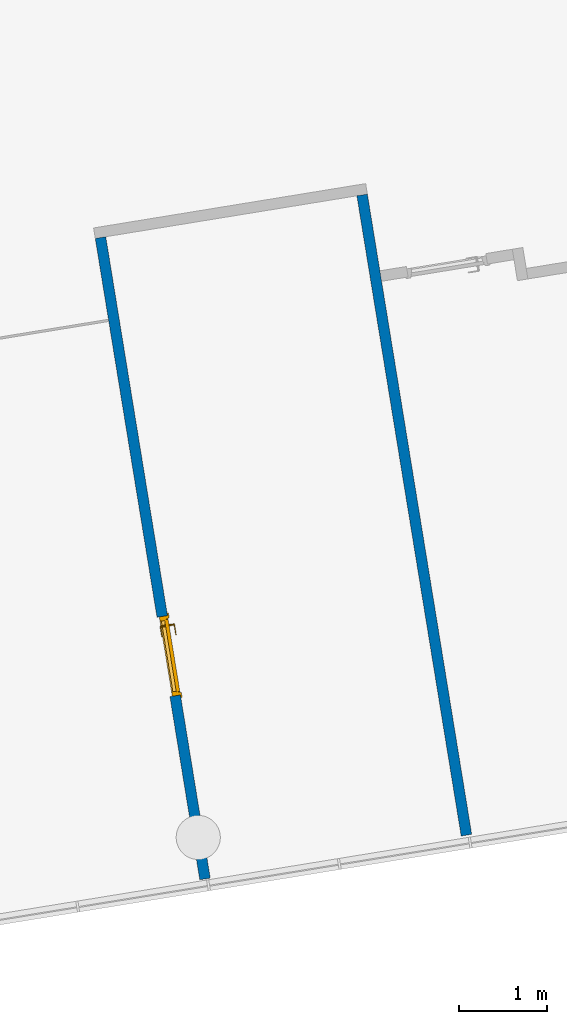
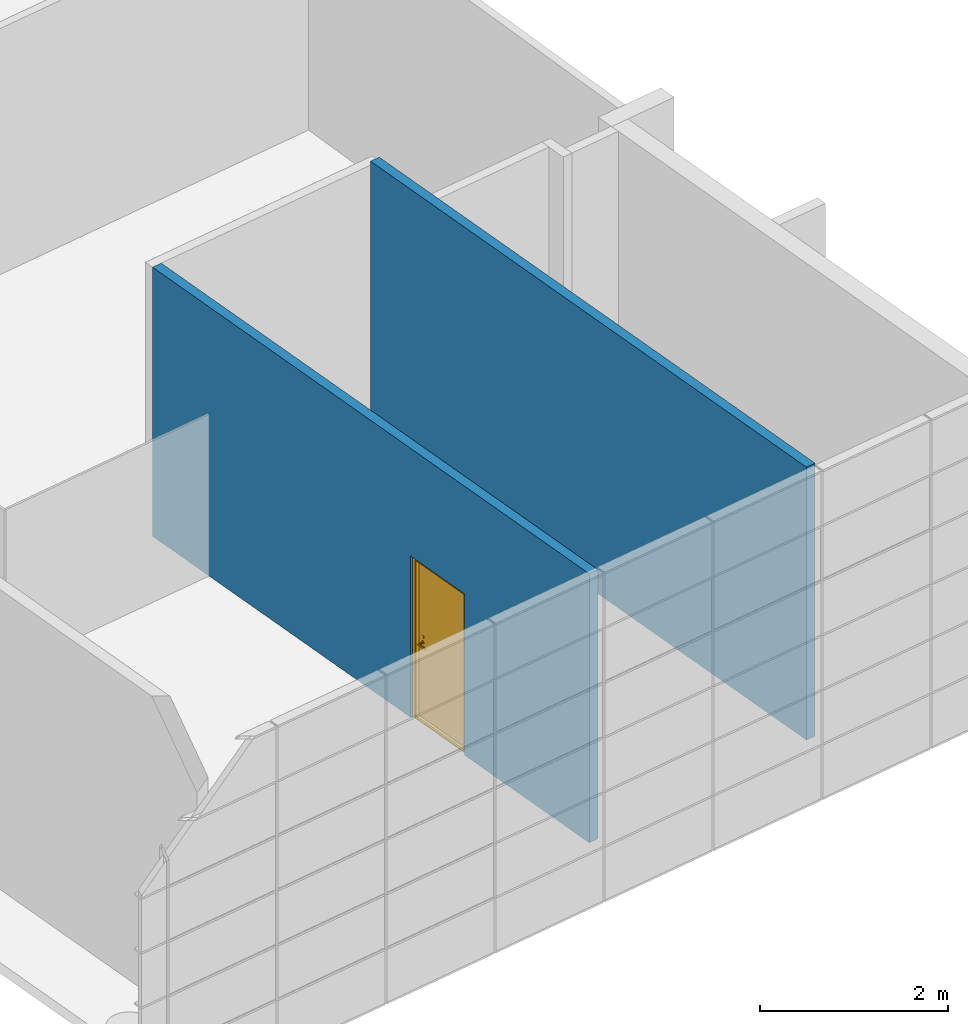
# One storey, part 10 of 18: 2 walls, 1 door, 1 opening.
"""IFC2X3 building model written with IfcOpenShell, lengths in millimetres."""

import ifcopenshell
import ifcopenshell.guid

model = None  # the IFC model being written
_history = None  # IfcOwnerHistory: only IFC2X3 demands one
_inside = {}  # id of a spatial element -> (the spatial element, [elements in it])
_under = {}  # id of a project, library or spatial element -> (it, [spatial elements below it])
_declared = {}  # id of a project -> (the project, [libraries it declares])
_typed = {}  # id of a type object -> (the type object, [elements of that type])
_made_of = {}  # id of a material, layer set ... -> (it, [elements and type objects made of it])


def new_model(schema):
    """Start an empty IFC model of exactly this schema.

    Asked for "IFC4X3", IfcOpenShell would pick the latest addendum, in which some entities
    have other attributes; the version numbers below select the first issue.
    IFC2X3 requires an IfcOwnerHistory on every rooted entity: one is made here for all.
    """
    global model, _history
    if schema == "IFC4X3":
        model = ifcopenshell.file(schema_version=(4, 3, 0, 0))
    else:
        model = ifcopenshell.file(schema=schema)
    _inside.clear()
    _under.clear()
    _declared.clear()
    _typed.clear()
    _made_of.clear()
    _history = None
    if model.schema == "IFC2X3":
        org = make("IfcOrganization", Name="unknown")
        user = make(
            "IfcPersonAndOrganization",
            ThePerson=make("IfcPerson", FamilyName="unknown"),
            TheOrganization=org,
        )
        app = make(
            "IfcApplication",
            ApplicationDeveloper=org,
            Version="unknown",
            ApplicationFullName="unknown",
            ApplicationIdentifier="unknown",
        )
        _history = make(
            "IfcOwnerHistory",
            OwningUser=user,
            OwningApplication=app,
            ChangeAction="ADDED",
            CreationDate=0,
        )
    return model


def make(cls, **values):
    """One entity of the class cls with the attributes given. An attribute that is None is left unset."""
    return model.create_entity(
        cls, **{name: value for name, value in values.items() if value is not None}
    )


def entity(cls, *values):
    """Any entity or typed value of the class cls, its attributes in the order of the schema. None: left unset."""
    e = model.create_entity(cls)
    for i, value in enumerate(values):
        if value is not None:
            e[i] = value
    return e


def rooted(cls, **values):
    """An entity with a GlobalId (a new one), such as an element, a storey or a relation."""
    return make(cls, GlobalId=ifcopenshell.guid.new(), OwnerHistory=_history, **values)


def si_unit(unit_type, name, prefix=None):
    """IfcSIUnit, for example si_unit("LENGTHUNIT", "METRE", prefix="MILLI")."""
    return make("IfcSIUnit", UnitType=unit_type, Prefix=prefix, Name=name)


def converted_unit(unit_type, name, factor, base, dimensions=None, offset=None):
    """IfcConversionBasedUnit, such as the inch: factor (a typed value) times the base unit."""
    return make(
        "IfcConversionBasedUnit"
        if offset is None
        else "IfcConversionBasedUnitWithOffset",
        ConversionOffset=offset,
        Dimensions=None
        if dimensions is None
        else entity("IfcDimensionalExponents", *dimensions),
        UnitType=unit_type,
        Name=name,
        ConversionFactor=make(
            "IfcMeasureWithUnit", ValueComponent=factor, UnitComponent=base
        ),
    )


def derived_unit(unit_type, elements):
    """IfcDerivedUnit: a product of units, each with its exponent."""
    return make(
        "IfcDerivedUnit",
        Elements=[
            make("IfcDerivedUnitElement", Unit=unit, Exponent=power)
            for unit, power in elements
        ],
        UnitType=unit_type,
    )


def assignment(units):
    """IfcUnitAssignment: the units of a project."""
    return None if units is None else make("IfcUnitAssignment", Units=units)


def point(xyz):
    """IfcCartesianPoint."""
    return None if xyz is None else make("IfcCartesianPoint", Coordinates=xyz)


def direction(xyz):
    """IfcDirection."""
    return None if xyz is None else make("IfcDirection", DirectionRatios=xyz)


def frame(location, z_axis=None, x_axis=None):
    """IfcAxis2Placement3D, a coordinate frame: its origin and axes. An axis left out is left unset."""
    return make(
        "IfcAxis2Placement3D",
        Location=point(location),
        Axis=direction(z_axis),
        RefDirection=direction(x_axis),
    )


def frame_2d(location, x_axis=None):
    """IfcAxis2Placement2D, a coordinate frame in the plane: its origin and x axis."""
    return make(
        "IfcAxis2Placement2D", Location=point(location), RefDirection=direction(x_axis)
    )


def origin():
    """The frame at (0, 0, 0) with its axes left unset."""
    return frame((0.0, 0.0, 0.0))


def origin_with_axes():
    """The frame at (0, 0, 0) with the z axis (0, 0, 1) and the x axis (1, 0, 0) written out."""
    return frame((0.0, 0.0, 0.0), z_axis=(0.0, 0.0, 1.0), x_axis=(1.0, 0.0, 0.0))


def place(relative_to, where):
    """IfcLocalPlacement: puts the frame where relative to a parent placement (None: the world)."""
    return make(
        "IfcLocalPlacement", PlacementRelTo=relative_to, RelativePlacement=where
    )


def context(
    kind, dimensions, precision=None, world=None, true_north=None, identifier=None
):
    """IfcGeometricRepresentationContext, for example the 3D "Model" context."""
    return make(
        "IfcGeometricRepresentationContext",
        ContextIdentifier=identifier,
        ContextType=kind,
        CoordinateSpaceDimension=dimensions,
        Precision=precision,
        WorldCoordinateSystem=world,
        TrueNorth=true_north,
    )


def subcontext(parent, identifier, kind, view, scale=None):
    """IfcGeometricRepresentationSubContext, for example "Body" below "Model"."""
    return make(
        "IfcGeometricRepresentationSubContext",
        ContextIdentifier=identifier,
        ContextType=kind,
        ParentContext=parent,
        TargetScale=scale,
        TargetView=view,
    )


def project(units=None, contexts=None):
    """IfcProject with its units and contexts."""
    return rooted(
        "IfcProject",
        Name="project",
        RepresentationContexts=contexts,
        UnitsInContext=assignment(units),
    )


def spatial(cls, under=None, at=None, **own):
    """A site, building, storey or space (cls), placed at a placement, below another one or the project."""
    s = rooted(cls, ObjectPlacement=at, **own)
    if under is not None:
        _under.setdefault(under.id(), (under, []))[1].append(s)
    return s


def polyline(points):
    """IfcPolyline through the points."""
    return make("IfcPolyline", Points=[point(p) for p in points])


def profile(cls, at=None, kind="AREA", **sizes):
    """A parametric profile (cls). Its sizes go by their IFC names, for example OverallWidth=200.0."""
    return make(cls, ProfileType=kind, Position=at, **sizes)


def rectangle(**sizes):
    """IfcRectangleProfileDef."""
    return profile("IfcRectangleProfileDef", **sizes)


def extrude(swept, where, along, depth):
    """IfcExtrudedAreaSolid: the profile swept, set in the frame where, extruded along a direction by depth."""
    return make(
        "IfcExtrudedAreaSolid",
        SweptArea=swept,
        Position=where,
        ExtrudedDirection=direction(along),
        Depth=depth,
    )


def clip(a, b, op="DIFFERENCE"):
    """IfcBooleanClippingResult: the solid a cut by the half space b."""
    return make(
        "IfcBooleanClippingResult", Operator=op, FirstOperand=a, SecondOperand=b
    )


def bounded_halfspace(plane, agree, where, boundary):
    """IfcPolygonalBoundedHalfSpace: a half space limited to a polygon's prism."""
    return make(
        "IfcPolygonalBoundedHalfSpace",
        BaseSurface=make("IfcPlane", Position=plane),
        AgreementFlag=agree,
        Position=where,
        PolygonalBoundary=boundary,
    )


def faces_of(points, faces, orient=None, outer=None):
    """IfcFace entities. A face is a list of loops; a loop is a list of indices into points, from 0.

    orient and outer hold one flag for each loop. By default every Orientation is true, the
    first loop of a face is its IfcFaceOuterBound and the others are IfcFaceBound.
    """
    made = []
    for i, loops in enumerate(faces):
        bounds = []
        for j, loop in enumerate(loops):
            is_outer = j == 0 if outer is None else outer[i][j]
            bounds.append(
                make(
                    "IfcFaceOuterBound" if is_outer else "IfcFaceBound",
                    Bound=make("IfcPolyLoop", Polygon=[points[k] for k in loop]),
                    Orientation=True if orient is None else orient[i][j],
                )
            )
        made.append(make("IfcFace", Bounds=bounds))
    return made


def faceted_brep(points, faces, orient=None, outer=None, voids=None):
    """IfcFacetedBrep: a solid bounded by flat faces; with voids (closed shells), ...WithVoids."""
    shared = [point(p) for p in points]
    hull = make("IfcClosedShell", CfsFaces=faces_of(shared, faces, orient, outer))
    if voids is None:
        return make("IfcFacetedBrep", Outer=hull)
    return make(
        "IfcFacetedBrepWithVoids",
        Outer=hull,
        Voids=[
            make(cls, CfsFaces=faces_of(shared, fs, o, b)) for cls, fs, o, b in voids
        ],
    )


def shape(context_of_items, identifier, shape_type, items):
    """IfcShapeRepresentation: the items that make up one representation, for example the "Body"."""
    return make(
        "IfcShapeRepresentation",
        ContextOfItems=context_of_items,
        RepresentationIdentifier=identifier,
        RepresentationType=shape_type,
        Items=items,
    )


def source(mapping_origin, context_of_items, identifier, shape_type, items):
    """IfcRepresentationMap: a shape defined once, which mapped items show again and again."""
    return make(
        "IfcRepresentationMap",
        MappingOrigin=mapping_origin,
        MappedRepresentation=shape(context_of_items, identifier, shape_type, items),
    )


def transform(
    local_origin,
    x_axis=None,
    y_axis=None,
    z_axis=None,
    scale=None,
    scale2=None,
    scale3=None,
    uniform=True,
):
    """IfcCartesianTransformationOperator3D, or its non-uniform kind. x_axis, y_axis, z_axis: its Axis1, 2, 3."""
    if uniform:
        return make(
            "IfcCartesianTransformationOperator3D",
            Axis1=direction(x_axis),
            Axis2=direction(y_axis),
            LocalOrigin=point(local_origin),
            Scale=scale,
            Axis3=direction(z_axis),
        )
    return make(
        "IfcCartesianTransformationOperator3DnonUniform",
        Axis1=direction(x_axis),
        Axis2=direction(y_axis),
        LocalOrigin=point(local_origin),
        Scale=scale,
        Axis3=direction(z_axis),
        Scale2=scale2,
        Scale3=scale3,
    )


def mapped(mapping_source, mapping_target):
    """IfcMappedItem: shows the shape of a source again, moved by a transform."""
    return make(
        "IfcMappedItem", MappingSource=mapping_source, MappingTarget=mapping_target
    )


def material(Name=None, Category=None):
    """IfcMaterial."""
    return make("IfcMaterial", Name=Name, Category=Category)


def material_list(materials):
    """IfcMaterialList."""
    return make("IfcMaterialList", Materials=materials)


def layer(
    of_material, thickness, ventilated=None, Name=None, Category=None, Priority=None
):
    """IfcMaterialLayer: one layer of a wall or slab, of a material (None: an air gap)."""
    return make(
        "IfcMaterialLayer",
        Material=of_material,
        LayerThickness=thickness,
        IsVentilated=ventilated,
        Name=Name,
        Category=Category,
        Priority=Priority,
    )


def layer_set(layers, Name=None):
    """IfcMaterialLayerSet."""
    return make("IfcMaterialLayerSet", MaterialLayers=layers, LayerSetName=Name)


def layer_usage(for_layer_set, set_direction, sense, offset, extent=None):
    """IfcMaterialLayerSetUsage: how a layer set lies in its element."""
    return make(
        "IfcMaterialLayerSetUsage",
        ForLayerSet=for_layer_set,
        LayerSetDirection=set_direction,
        DirectionSense=sense,
        OffsetFromReferenceLine=offset,
        ReferenceExtent=extent,
    )


def made_of(thing, what):
    """Note that an element or type object is made of a material, layer set ...; save() writes the relation."""
    if what is not None:
        _made_of.setdefault(what.id(), (what, []))[1].append(thing)
    return thing


def type_object(cls, material=None, **own):
    """A type object (cls), such as IfcWallType, which elements share."""
    return made_of(rooted(cls, **own), material)


def element(
    cls,
    number,
    at=None,
    inside=None,
    cuts=None,
    type_object=None,
    material=None,
    context=None,
    identifier="Body",
    shape_type=None,
    held_by="IfcProductDefinitionShape",
    body=None,
    shapes=None,
    **own,
):
    """One element of the class cls, such as IfcWall. Its Tag is "e" and its number.

    at: its placement. inside: the storey or other place that contains it. cuts: it is an
    opening in that element (IfcRelVoidsElement). A single representation is given by context,
    identifier, shape_type and body (its items); several are given by shapes. held_by: the class
    of the entity that holds the representations. save() writes the other relations.
    """
    e = rooted(cls, Tag="e%d" % number, ObjectPlacement=at, **own)
    if body is not None:
        shapes = [shape(context, identifier, shape_type, body)]
    if shapes is not None:
        e.Representation = make(held_by, Representations=shapes)
    if inside is not None:
        _inside.setdefault(inside.id(), (inside, []))[1].append(e)
    if cuts is not None:
        rooted(
            "IfcRelVoidsElement", RelatingBuildingElement=cuts, RelatedOpeningElement=e
        )
    if type_object is not None:
        _typed.setdefault(type_object.id(), (type_object, []))[1].append(e)
    return made_of(e, material)


def fill(opening, filler):
    """IfcRelFillsElement: the door or window that sits in an opening."""
    return rooted(
        "IfcRelFillsElement",
        RelatingOpeningElement=opening,
        RelatedBuildingElement=filler,
    )


def aggregate(whole, parts):
    """IfcRelAggregates: a whole, such as a stair, and the parts it consists of."""
    return rooted("IfcRelAggregates", RelatingObject=whole, RelatedObjects=parts)


def save(model, path):
    """Write the relations noted so far, then the file.

    IfcRelAggregates (storeys below a building ...), IfcRelContainedInSpatialStructure (elements
    in a storey), IfcRelDefinesByType, IfcRelAssociatesMaterial and IfcRelDeclares: one each for
    every whole, place, type object, material and project.
    """
    for whole, parts in _under.values():
        aggregate(whole, parts)
    for where, things in _inside.values():
        rooted(
            "IfcRelContainedInSpatialStructure",
            RelatedElements=things,
            RelatingStructure=where,
        )
    for kind, things in _typed.values():
        rooted("IfcRelDefinesByType", RelatedObjects=things, RelatingType=kind)
    for what, things in _made_of.values():
        rooted("IfcRelAssociatesMaterial", RelatedObjects=things, RelatingMaterial=what)
    for by, libraries in _declared.values():
        rooted("IfcRelDeclares", RelatingContext=by, RelatedDefinitions=libraries)
    model.write(path)


model = new_model("IFC2X3")

# Units and contexts
model_context = context("Model", 3, precision=0.01, world=origin(), true_north=direction((6.12323399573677e-17, 1.0)))
plan_context = context("Plan", 3, precision=1e-05, world=origin_with_axes())
body_context = subcontext(model_context, "Body", "Model", "MODEL_VIEW")
ifc_project = project(units=[converted_unit("PLANEANGLEUNIT", "DEGREE", entity("IfcPositiveLengthMeasure", 0.0174532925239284), si_unit("PLANEANGLEUNIT", "RADIAN"), dimensions=[0, 0, 0, 0, 0, 0, 0]), si_unit("AREAUNIT", "SQUARE_METRE"), si_unit("LENGTHUNIT", "METRE", prefix="MILLI"), si_unit("MASSUNIT", "GRAM", prefix="KILO"), si_unit("POWERUNIT", "WATT"), si_unit("PRESSUREUNIT", "PASCAL", prefix="KILO"), si_unit("FORCEUNIT", "NEWTON", prefix="KILO"), si_unit("ELECTRICVOLTAGEUNIT", "VOLT"), si_unit("ELECTRICCURRENTUNIT", "AMPERE"), si_unit("THERMODYNAMICTEMPERATUREUNIT", "DEGREE_CELSIUS"), si_unit("TIMEUNIT", "SECOND"), si_unit("VOLUMEUNIT", "CUBIC_METRE"), derived_unit("LINEARVELOCITYUNIT", [(si_unit("LENGTHUNIT", "METRE"), 1), (si_unit("TIMEUNIT", "SECOND"), -1)]), derived_unit("VOLUMETRICFLOWRATEUNIT", [(si_unit("VOLUMEUNIT", "CUBIC_METRE"), 1), (si_unit("TIMEUNIT", "SECOND"), -1)]), derived_unit("THERMALTRANSMITTANCEUNIT", [(si_unit("POWERUNIT", "WATT"), 1), (si_unit("THERMODYNAMICTEMPERATUREUNIT", "KELVIN"), -1), (si_unit("AREAUNIT", "SQUARE_METRE"), -1)]), derived_unit("SOUNDPRESSUREUNIT", [(si_unit("PRESSUREUNIT", "PASCAL"), 1)])], contexts=[model_context, plan_context])

# Site, building, storey
site_placement = place(None, frame((-305029.896016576, -232111.759730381, 0.0), z_axis=(0.0, 0.0, 1.0), x_axis=(-0.160806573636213, 0.986985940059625, 0.0)))
site = spatial("IfcSite", under=ifc_project, at=site_placement, Name="Default", CompositionType="ELEMENT")
building_placement = place(site_placement, frame((0.0, 0.0, 0.0), z_axis=(0.0, 0.0, 1.0), x_axis=(1.0, -2.77555756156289e-17, 0.0)))
building = spatial("IfcBuilding", under=site, at=building_placement, Name="br001-a-200-1-0001", CompositionType="ELEMENT")
storey_placement = place(building_placement, frame((0.0, 0.0, 55500.0), z_axis=(0.0, 0.0, 1.0), x_axis=(1.0, -2.77555756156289e-17, 0.0)))
storey = spatial("IfcBuildingStorey", under=building, at=storey_placement, Name="H02-Nivå F-3,5 m", CompositionType="ELEMENT", Elevation=55500.0)

# Wall
ifc_material_1 = material(Name="_NSW Standard")
ifc_layer = layer(ifc_material_1, 120.0)
ifc_layer_set = layer_set([ifc_layer], Name="Basic Wall:A242 - Standard 120")
ifc_layer_usage_1 = layer_usage(ifc_layer_set, "AXIS2", "NEGATIVE", 60.0)
wall_type = type_object("IfcWallType", Name="Basic Wall:A242 - Standard 120", PredefinedType="STANDARD", material=ifc_layer_set)
wall_1_placement = place(storey_placement, frame((1179557.59858442, -731766.378367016, 0.0), z_axis=(0.0, 0.0, 1.0), x_axis=(-1.0, 2.77555756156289e-17, 0.0)))
element("IfcWallStandardCase", 1, at=wall_1_placement, inside=storey, type_object=wall_type, material=ifc_layer_usage_1, Name="Basic Wall:A242 - Standard 120", ObjectType="Basic Wall:A242 - Standard 120", context=body_context, shape_type="Clipping", body=[
    clip(extrude(rectangle(XDim=7342.00000000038, YDim=120.000000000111, at=frame_2d((3671.00000000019, -9.07007802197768e-12), x_axis=(-1.0, 0.0))), origin(), (0.0, 0.0, 1.0), 3550.00000000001), bounded_halfspace(frame((0.0, -60.0, 3550.0), z_axis=(0.0, 0.0, -1.0), x_axis=(-1.0, 0.0, 0.0)), True, frame((0.0, -60.0, 3550.0)), polyline([(0.0, 0.0), (7342.0, 0.0), (7342.0, 120.0), (1000.0, 120.0), (880.0, 120.0), (0.0, 120.0), (0.0, 0.0)]))),
])

# Wall, opening, door
ifc_layer_usage_2 = layer_usage(ifc_layer_set, "AXIS2", "NEGATIVE", 60.0)
wall_2_placement = place(storey_placement, frame((1179557.59858442, -728766.378367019, 0.0), z_axis=(0.0, 0.0, 1.0), x_axis=(-1.0, 2.77555756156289e-17, 0.0)))
wall_2 = element("IfcWallStandardCase", 2, at=wall_2_placement, inside=storey, type_object=wall_type, material=ifc_layer_usage_2, Name="Basic Wall:A242 - Standard 120", ObjectType="Basic Wall:A242 - Standard 120", context=body_context, shape_type="SweptSolid", body=[
    extrude(rectangle(XDim=7355.00000000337, YDim=120.000000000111, at=frame_2d((3677.50000000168, 0.0), x_axis=(-1.0, 0.0))), origin(), (0.0, 0.0, 1.0), 3500.0),
])
opening_placement = place(wall_2_placement, frame((4345.00000000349, -60.0000000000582, 0.0), z_axis=(0.0, 0.0, 1.0), x_axis=(1.0, -2.77555756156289e-17, 0.0)))
opening = element("IfcOpeningElement", 3, at=opening_placement, cuts=wall_2, Name="NSW Innvendig slagdør, enkel:9M x 21M:1", ObjectType="Opening", context=body_context, shape_type="SweptSolid", body=[
    extrude(rectangle(XDim=2100.00000000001, YDim=910.0, at=frame_2d((1050.0, 455.000000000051), x_axis=(1.0, 0.0))), frame((0.0, 0.0, 0.0), z_axis=(0.0, 1.0, 0.0), x_axis=(0.0, 0.0, 1.0)), (0.0, 0.0, 1.0), 120.0),
])
ifc_material_2 = material(Name="<Unnamed>")
ifc_material_3 = material(Name="_NSW Dør - dørblad, hvit")
ifc_material_4 = material(Name="_NSW Dør - terskel, tre")
ifc_material_5 = material(Name="_NSW Dør - listverk, hvit")
ifc_material_list = material_list([ifc_material_2, ifc_material_3, ifc_material_4, ifc_material_5])
door_style = type_object("IfcDoorStyle", Name="NSW Innvendig slagdør, enkel:9M x 21M", ConstructionType="NOTDEFINED", OperationType="NOTDEFINED", ParameterTakesPrecedence=False, Sizeable=False, material=ifc_material_list)
shared_shape = source(origin(), body_context, "Body", "Brep", [
    faceted_brep([(-122.179491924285, 75.0, 1065.50000000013), (-120.181483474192, 75.0, 1070.32361909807), (-119.499999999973, 75.0, 1075.50000000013), (-120.181483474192, 75.0, 1080.67638090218), (-122.179491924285, 75.0, 1085.50000000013), (-125.357864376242, 75.0, 1089.64213562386), (-129.499999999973, 75.0, 1092.82050807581), (-134.323619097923, 75.0, 1094.81851652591), (-139.499999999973, 75.0, 1095.50000000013), (-144.676380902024, 75.0, 1094.81851652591), (-149.499999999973, 75.0, 1092.82050807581), (-153.642135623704, 75.0, 1089.64213562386), (-156.820508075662, 75.0, 1085.50000000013), (-158.818516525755, 75.0, 1080.67638090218), (-159.499999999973, 75.0, 1075.50000000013), (-158.818516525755, 75.0, 1070.32361909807), (-156.820508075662, 75.0, 1065.50000000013), (-153.642135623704, 75.0, 1061.35786437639), (-149.499999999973, 75.0, 1058.17949192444), (-144.676380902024, 75.0, 1056.18148347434), (-139.499999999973, 75.0, 1055.50000000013), (-134.323619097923, 75.0, 1056.18148347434), (-129.499999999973, 75.0, 1058.17949192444), (-125.357864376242, 75.0, 1061.35786437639), (-139.499999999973, 80.0, 1095.50000000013), (-134.323619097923, 80.0, 1094.81851652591), (-129.499999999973, 80.0, 1092.82050807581), (-125.357864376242, 80.0, 1089.64213562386), (-122.179491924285, 80.0, 1085.50000000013), (-120.181483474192, 80.0, 1080.67638090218), (-119.499999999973, 80.0, 1075.50000000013), (-120.181483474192, 80.0, 1070.32361909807), (-122.179491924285, 80.0, 1065.50000000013), (-125.357864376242, 80.0, 1061.35786437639), (-129.499999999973, 80.0, 1058.17949192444), (-134.323619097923, 80.0, 1056.18148347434), (-139.499999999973, 80.0, 1055.50000000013), (-144.676380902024, 80.0, 1056.18148347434), (-149.499999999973, 80.0, 1058.17949192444), (-153.642135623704, 80.0, 1061.35786437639), (-156.820508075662, 80.0, 1065.50000000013), (-158.818516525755, 80.0, 1070.32361909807), (-159.499999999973, 80.0, 1075.50000000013), (-158.818516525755, 80.0, 1080.67638090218), (-156.820508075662, 80.0, 1085.50000000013), (-153.642135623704, 80.0, 1089.64213562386), (-149.499999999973, 80.0, 1092.82050807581), (-144.676380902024, 80.0, 1094.81851652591)], [[[0, 1, 2, 3, 4, 5, 6, 7, 8, 9, 10, 11, 12, 13, 14, 15, 16, 17, 18, 19, 20, 21, 22, 23]], [[24, 25, 26, 27, 28, 29, 30, 31, 32, 33, 34, 35, 36, 37, 38, 39, 40, 41, 42, 43, 44, 45, 46, 47]], [[41, 15, 14, 42]], [[40, 16, 15, 41]], [[18, 17, 39, 38]], [[40, 39, 17, 16]], [[19, 18, 38, 37]], [[20, 19, 37, 36]], [[35, 21, 20, 36]], [[34, 22, 21, 35]], [[0, 23, 33, 32]], [[34, 33, 23, 22]], [[1, 0, 32, 31]], [[2, 1, 31, 30]], [[29, 3, 2, 30]], [[28, 4, 3, 29]], [[6, 5, 27, 26]], [[28, 27, 5, 4]], [[7, 6, 26, 25]], [[8, 7, 25, 24]], [[47, 9, 8, 24]], [[46, 10, 9, 47]], [[12, 11, 45, 44]], [[46, 45, 11, 10]], [[13, 12, 44, 43]], [[14, 13, 43, 42]]]),
    faceted_brep([(-139.499999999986, 15.0, 990.500000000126), (-19.499999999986, 15.0, 990.500000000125), (-19.499999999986, 15.0, 1010.50000000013), (-139.499999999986, 15.0, 1010.50000000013), (-142.088190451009, 15.0, 1010.15925826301), (-144.499999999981, 15.0, 1009.16025403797), (-146.571067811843, 15.0, 1007.57106781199), (-148.16025403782, 15.0, 1005.50000000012), (-149.159258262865, 15.0, 1003.08819045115), (-149.499999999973, 15.0, 1000.50000000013), (-149.159258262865, 15.0, 997.911809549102), (-148.16025403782, 15.0, 995.500000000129), (-146.571067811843, 15.0, 993.428932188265), (-144.499999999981, 15.0, 991.839745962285), (-142.088190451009, 15.0, 990.840741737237), (-136.911809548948, 25.0, 990.840741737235), (-134.499999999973, 25.0, 991.839745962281), (-132.428932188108, 25.0, 993.42893218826), (-130.839745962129, 25.0, 995.500000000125), (-129.840741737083, 25.0, 997.9118095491), (-129.499999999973, 25.0, 1000.50000000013), (-129.840741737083, 25.0, 1003.08819045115), (-130.839745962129, 25.0, 1005.50000000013), (-132.428932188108, 25.0, 1007.57106781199), (-134.499999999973, 25.0, 1009.16025403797), (-136.911809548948, 25.0, 1010.15925826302), (-139.499999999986, 25.0, 1010.50000000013), (-19.499999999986, 25.0, 1010.50000000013), (-19.499999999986, 25.0, 990.500000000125), (-139.499999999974, 25.0, 990.500000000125), (-139.499999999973, 75.0, 1010.50000000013), (-136.911809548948, 75.0, 1010.15925826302), (-134.499999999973, 75.0, 1009.16025403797), (-132.428932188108, 75.0, 1007.57106781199), (-130.839745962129, 75.0, 1005.50000000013), (-129.840741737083, 75.0, 1003.08819045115), (-129.499999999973, 75.0, 1000.50000000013), (-129.840741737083, 75.0, 997.9118095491), (-130.839745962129, 75.0, 995.500000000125), (-132.428932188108, 75.0, 993.42893218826), (-134.499999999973, 75.0, 991.839745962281), (-136.911809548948, 75.0, 990.840741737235), (-139.499999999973, 75.0, 990.500000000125), (-142.088190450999, 75.0, 990.840741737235), (-144.499999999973, 75.0, 991.839745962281), (-146.571067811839, 75.0, 993.42893218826), (-148.160254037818, 75.0, 995.500000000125), (-149.159258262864, 75.0, 997.9118095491), (-149.499999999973, 75.0, 1000.50000000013), (-149.159258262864, 75.0, 1003.08819045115), (-148.160254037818, 75.0, 1005.50000000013), (-146.571067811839, 75.0, 1007.57106781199), (-144.499999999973, 75.0, 1009.16025403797), (-142.088190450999, 75.0, 1010.15925826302)], [[[0, 1, 2, 3, 4, 5, 6, 7, 8, 9, 10, 11, 12, 13, 14]], [[15, 16, 17, 18, 19, 20, 21, 22, 23, 24, 25, 26, 27, 28, 29]], [[1, 0, 29, 28]], [[2, 1, 28, 27]], [[3, 2, 27, 26]], [[30, 31, 32, 33, 34, 35, 36, 37, 38, 39, 40, 41, 42, 43, 44, 45, 46, 47, 48, 49, 50, 51, 52, 53]], [[47, 10, 9, 48]], [[46, 11, 10, 47]], [[46, 45, 29]], [[29, 11, 46]], [[45, 44, 29]], [[29, 14, 13]], [[13, 12, 29]], [[29, 12, 11]], [[29, 0, 14]], [[42, 29, 43]], [[29, 44, 43]], [[41, 15, 29, 42]], [[40, 16, 15, 41]], [[18, 17, 39, 38]], [[38, 37, 19, 18]], [[40, 39, 17, 16]], [[36, 20, 19, 37]], [[35, 21, 20, 36]], [[34, 22, 21, 35]], [[24, 23, 33, 32]], [[34, 33, 23, 22]], [[25, 24, 32, 31]], [[25, 31, 30, 26]], [[53, 26, 30]], [[26, 4, 3]], [[52, 26, 53]], [[26, 51, 50]], [[50, 49, 8, 7]], [[52, 51, 26]], [[48, 9, 8, 49]], [[26, 5, 4]], [[5, 26, 6]], [[7, 6, 26]], [[7, 26, 50]]]),
    faceted_brep([(-129.499999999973, 75.0, 983.179491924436), (-125.357864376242, 75.0, 986.357864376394), (-122.179491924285, 75.0, 990.500000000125), (-120.181483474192, 75.0, 995.323619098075), (-119.499999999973, 75.0, 1000.50000000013), (-120.181483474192, 75.0, 1005.67638090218), (-122.179491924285, 75.0, 1010.50000000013), (-125.357864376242, 75.0, 1014.64213562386), (-129.499999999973, 75.0, 1017.82050807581), (-134.323619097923, 75.0, 1019.81851652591), (-139.499999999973, 75.0, 1020.50000000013), (-144.676380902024, 75.0, 1019.81851652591), (-149.499999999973, 75.0, 1017.82050807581), (-153.642135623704, 75.0, 1014.64213562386), (-156.820508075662, 75.0, 1010.50000000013), (-158.818516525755, 75.0, 1005.67638090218), (-159.499999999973, 75.0, 1000.50000000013), (-158.818516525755, 75.0, 995.323619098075), (-156.820508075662, 75.0, 990.500000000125), (-153.642135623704, 75.0, 986.357864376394), (-149.499999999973, 75.0, 983.179491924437), (-144.676380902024, 75.0, 981.181483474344), (-139.499999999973, 75.0, 980.500000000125), (-134.323619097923, 75.0, 981.181483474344), (-139.499999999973, 80.0, 1020.50000000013), (-134.323619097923, 80.0, 1019.81851652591), (-129.499999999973, 80.0, 1017.82050807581), (-125.357864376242, 80.0, 1014.64213562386), (-122.179491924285, 80.0, 1010.50000000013), (-120.181483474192, 80.0, 1005.67638090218), (-119.499999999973, 80.0, 1000.50000000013), (-120.181483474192, 80.0, 995.323619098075), (-122.179491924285, 80.0, 990.500000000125), (-125.357864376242, 80.0, 986.357864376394), (-129.499999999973, 80.0, 983.179491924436), (-134.323619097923, 80.0, 981.181483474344), (-139.499999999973, 80.0, 980.500000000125), (-144.676380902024, 80.0, 981.181483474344), (-149.499999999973, 80.0, 983.179491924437), (-153.642135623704, 80.0, 986.357864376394), (-156.820508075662, 80.0, 990.500000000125), (-158.818516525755, 80.0, 995.323619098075), (-159.499999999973, 80.0, 1000.50000000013), (-158.818516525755, 80.0, 1005.67638090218), (-156.820508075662, 80.0, 1010.50000000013), (-153.642135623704, 80.0, 1014.64213562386), (-149.499999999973, 80.0, 1017.82050807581), (-144.676380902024, 80.0, 1019.81851652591)], [[[0, 1, 2, 3, 4, 5, 6, 7, 8, 9, 10, 11, 12, 13, 14, 15, 16, 17, 18, 19, 20, 21, 22, 23]], [[24, 25, 26, 27, 28, 29, 30, 31, 32, 33, 34, 35, 36, 37, 38, 39, 40, 41, 42, 43, 44, 45, 46, 47]], [[41, 17, 16, 42]], [[40, 18, 17, 41]], [[20, 19, 39, 38]], [[40, 39, 19, 18]], [[21, 20, 38, 37]], [[22, 21, 37, 36]], [[35, 23, 22, 36]], [[34, 0, 23, 35]], [[2, 1, 33, 32]], [[34, 33, 1, 0]], [[3, 2, 32, 31]], [[4, 3, 31, 30]], [[29, 5, 4, 30]], [[28, 6, 5, 29]], [[8, 7, 27, 26]], [[28, 27, 7, 6]], [[9, 8, 26, 25]], [[10, 9, 25, 24]], [[47, 11, 10, 24]], [[46, 12, 11, 47]], [[14, 13, 45, 44]], [[46, 45, 13, 12]], [[15, 14, 44, 43]], [[16, 15, 43, 42]]]),
    faceted_brep([(-129.499999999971, 125.0, 1058.17949192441), (-134.323619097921, 125.0, 1056.18148347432), (-139.499999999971, 125.0, 1055.5000000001), (-144.676380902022, 125.0, 1056.18148347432), (-149.499999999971, 125.0, 1058.17949192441), (-153.642135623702, 125.0, 1061.35786437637), (-156.82050807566, 125.0, 1065.5000000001), (-158.818516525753, 125.0, 1070.32361909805), (-159.499999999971, 125.0, 1075.5000000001), (-158.818516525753, 125.0, 1080.67638090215), (-156.82050807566, 125.0, 1085.5000000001), (-153.642135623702, 125.0, 1089.64213562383), (-149.499999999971, 125.0, 1092.82050807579), (-144.676380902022, 125.0, 1094.81851652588), (-139.499999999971, 125.0, 1095.5000000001), (-134.323619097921, 125.0, 1094.81851652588), (-129.499999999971, 125.0, 1092.82050807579), (-125.35786437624, 125.0, 1089.64213562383), (-122.179491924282, 125.0, 1085.5000000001), (-120.18148347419, 125.0, 1080.67638090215), (-119.499999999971, 125.0, 1075.5000000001), (-120.18148347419, 125.0, 1070.32361909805), (-122.179491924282, 125.0, 1065.5000000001), (-125.35786437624, 125.0, 1061.35786437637), (-129.499999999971, 120.0, 1092.82050807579), (-134.323619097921, 120.0, 1094.81851652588), (-139.499999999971, 120.0, 1095.5000000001), (-144.676380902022, 120.0, 1094.81851652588), (-149.499999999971, 120.0, 1092.82050807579), (-153.642135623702, 120.0, 1089.64213562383), (-156.82050807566, 120.0, 1085.5000000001), (-158.818516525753, 120.0, 1080.67638090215), (-159.499999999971, 120.0, 1075.5000000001), (-158.818516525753, 120.0, 1070.32361909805), (-156.82050807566, 120.0, 1065.5000000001), (-153.642135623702, 120.0, 1061.35786437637), (-149.499999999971, 120.0, 1058.17949192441), (-144.676380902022, 120.0, 1056.18148347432), (-139.499999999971, 120.0, 1055.5000000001), (-134.323619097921, 120.0, 1056.18148347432), (-129.499999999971, 120.0, 1058.17949192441), (-125.35786437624, 120.0, 1061.35786437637), (-122.179491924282, 120.0, 1065.5000000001), (-120.18148347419, 120.0, 1070.32361909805), (-119.499999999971, 120.0, 1075.5000000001), (-120.18148347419, 120.0, 1080.67638090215), (-122.179491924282, 120.0, 1085.5000000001), (-125.35786437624, 120.0, 1089.64213562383)], [[[0, 1, 2, 3, 4, 5, 6, 7, 8, 9, 10, 11, 12, 13, 14, 15, 16, 17, 18, 19, 20, 21, 22, 23]], [[24, 25, 26, 27, 28, 29, 30, 31, 32, 33, 34, 35, 36, 37, 38, 39, 40, 41, 42, 43, 44, 45, 46, 47]], [[32, 8, 7, 33]], [[33, 7, 6, 34]], [[36, 35, 5, 4]], [[5, 35, 34, 6]], [[37, 36, 4, 3]], [[37, 3, 2, 38]], [[38, 2, 1, 39]], [[39, 1, 0, 40]], [[42, 41, 23, 22]], [[23, 41, 40, 0]], [[43, 42, 22, 21]], [[43, 21, 20, 44]], [[44, 20, 19, 45]], [[45, 19, 18, 46]], [[24, 47, 17, 16]], [[17, 47, 46, 18]], [[25, 24, 16, 15]], [[25, 15, 14, 26]], [[26, 14, 13, 27]], [[27, 13, 12, 28]], [[30, 29, 11, 10]], [[11, 29, 28, 12]], [[31, 30, 10, 9]], [[31, 9, 8, 32]]]),
    faceted_brep([(-146.571067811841, 185.0, 1007.57106781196), (-144.499999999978, 185.0, 1009.16025403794), (-142.088190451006, 185.0, 1010.15925826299), (-139.499999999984, 185.0, 1010.5000000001), (-19.4999999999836, 185.0, 1010.5000000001), (-19.4999999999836, 185.0, 990.500000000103), (-139.499999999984, 185.0, 990.500000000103), (-142.088190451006, 185.0, 990.840741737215), (-144.499999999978, 185.0, 991.839745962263), (-146.571067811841, 185.0, 993.428932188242), (-148.160254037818, 185.0, 995.500000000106), (-149.159258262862, 185.0, 997.91180954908), (-149.499999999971, 185.0, 1000.5000000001), (-149.159258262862, 185.0, 1003.08819045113), (-148.160254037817, 185.0, 1005.5000000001), (-19.4999999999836, 175.0, 990.500000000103), (-19.4999999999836, 175.0, 1010.5000000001), (-139.499999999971, 175.0, 1010.5000000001), (-136.911809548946, 175.0, 1010.15925826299), (-134.499999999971, 175.0, 1009.16025403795), (-132.428932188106, 175.0, 1007.57106781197), (-130.839745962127, 175.0, 1005.5000000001), (-129.84074173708, 175.0, 1003.08819045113), (-129.499999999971, 175.0, 1000.5000000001), (-129.84074173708, 175.0, 997.911809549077), (-130.839745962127, 175.0, 995.500000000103), (-132.428932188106, 175.0, 993.428932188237), (-134.499999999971, 175.0, 991.839745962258), (-136.911809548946, 175.0, 990.840741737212), (-139.499999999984, 175.0, 990.500000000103), (-134.499999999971, 125.0, 1009.16025403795), (-136.911809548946, 125.0, 1010.15925826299), (-139.499999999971, 125.0, 1010.5000000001), (-142.088190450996, 125.0, 1010.15925826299), (-144.499999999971, 125.0, 1009.16025403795), (-146.571067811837, 125.0, 1007.57106781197), (-148.160254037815, 125.0, 1005.5000000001), (-149.159258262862, 125.0, 1003.08819045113), (-149.499999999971, 125.0, 1000.5000000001), (-149.159258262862, 125.0, 997.911809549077), (-148.160254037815, 125.0, 995.500000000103), (-146.571067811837, 125.0, 993.428932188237), (-144.499999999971, 125.0, 991.839745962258), (-142.088190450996, 125.0, 990.840741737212), (-139.499999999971, 125.0, 990.500000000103), (-136.911809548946, 125.0, 990.840741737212), (-134.499999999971, 125.0, 991.839745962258), (-132.428932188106, 125.0, 993.428932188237), (-130.839745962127, 125.0, 995.500000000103), (-129.84074173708, 125.0, 997.911809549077), (-129.499999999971, 125.0, 1000.5000000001), (-129.84074173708, 125.0, 1003.08819045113), (-130.839745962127, 125.0, 1005.5000000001), (-132.428932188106, 125.0, 1007.57106781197)], [[[0, 1, 2, 3, 4, 5, 6, 7, 8, 9, 10, 11, 12, 13, 14]], [[15, 16, 17, 18, 19, 20, 21, 22, 23, 24, 25, 26, 27, 28, 29]], [[29, 6, 5, 15]], [[15, 5, 4, 16]], [[16, 4, 3, 17]], [[30, 31, 32, 33, 34, 35, 36, 37, 38, 39, 40, 41, 42, 43, 44, 45, 46, 47, 48, 49, 50, 51, 52, 53]], [[38, 12, 11, 39]], [[39, 11, 10, 40]], [[29, 41, 40]], [[40, 10, 29]], [[29, 42, 41]], [[8, 7, 29]], [[29, 9, 8]], [[10, 9, 29]], [[7, 6, 29]], [[43, 29, 44]], [[43, 42, 29]], [[44, 29, 28, 45]], [[45, 28, 27, 46]], [[48, 47, 26, 25]], [[24, 49, 48, 25]], [[26, 47, 46, 27]], [[49, 24, 23, 50]], [[50, 23, 22, 51]], [[51, 22, 21, 52]], [[30, 53, 20, 19]], [[20, 53, 52, 21]], [[31, 30, 19, 18]], [[17, 32, 31, 18]], [[32, 17, 33]], [[3, 2, 17]], [[33, 17, 34]], [[36, 35, 17]], [[13, 37, 36, 14]], [[17, 35, 34]], [[37, 13, 12, 38]], [[2, 1, 17]], [[0, 17, 1]], [[17, 0, 14]], [[36, 17, 14]]]),
    faceted_brep([(-134.323619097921, 125.0, 981.181483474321), (-139.499999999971, 125.0, 980.500000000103), (-144.676380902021, 125.0, 981.181483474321), (-149.499999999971, 125.0, 983.179491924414), (-153.642135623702, 125.0, 986.357864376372), (-156.82050807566, 125.0, 990.500000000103), (-158.818516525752, 125.0, 995.323619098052), (-159.499999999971, 125.0, 1000.5000000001), (-158.818516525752, 125.0, 1005.67638090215), (-156.82050807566, 125.0, 1010.5000000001), (-153.642135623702, 125.0, 1014.64213562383), (-149.499999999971, 125.0, 1017.82050807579), (-144.676380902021, 125.0, 1019.81851652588), (-139.499999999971, 125.0, 1020.5000000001), (-134.323619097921, 125.0, 1019.81851652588), (-129.499999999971, 125.0, 1017.82050807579), (-125.35786437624, 125.0, 1014.64213562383), (-122.179491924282, 125.0, 1010.5000000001), (-120.18148347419, 125.0, 1005.67638090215), (-119.499999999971, 125.0, 1000.5000000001), (-120.18148347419, 125.0, 995.323619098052), (-122.179491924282, 125.0, 990.500000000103), (-125.35786437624, 125.0, 986.357864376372), (-129.499999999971, 125.0, 983.179491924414), (-129.499999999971, 120.0, 1017.82050807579), (-134.323619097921, 120.0, 1019.81851652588), (-139.499999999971, 120.0, 1020.5000000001), (-144.676380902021, 120.0, 1019.81851652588), (-149.499999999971, 120.0, 1017.82050807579), (-153.642135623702, 120.0, 1014.64213562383), (-156.82050807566, 120.0, 1010.5000000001), (-158.818516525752, 120.0, 1005.67638090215), (-159.499999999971, 120.0, 1000.5000000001), (-158.818516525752, 120.0, 995.323619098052), (-156.82050807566, 120.0, 990.500000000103), (-153.642135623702, 120.0, 986.357864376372), (-149.499999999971, 120.0, 983.179491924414), (-144.676380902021, 120.0, 981.181483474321), (-139.499999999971, 120.0, 980.500000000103), (-134.323619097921, 120.0, 981.181483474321), (-129.499999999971, 120.0, 983.179491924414), (-125.35786437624, 120.0, 986.357864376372), (-122.179491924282, 120.0, 990.500000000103), (-120.18148347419, 120.0, 995.323619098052), (-119.499999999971, 120.0, 1000.5000000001), (-120.18148347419, 120.0, 1005.67638090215), (-122.179491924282, 120.0, 1010.5000000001), (-125.35786437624, 120.0, 1014.64213562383)], [[[0, 1, 2, 3, 4, 5, 6, 7, 8, 9, 10, 11, 12, 13, 14, 15, 16, 17, 18, 19, 20, 21, 22, 23]], [[24, 25, 26, 27, 28, 29, 30, 31, 32, 33, 34, 35, 36, 37, 38, 39, 40, 41, 42, 43, 44, 45, 46, 47]], [[32, 7, 6, 33]], [[33, 6, 5, 34]], [[36, 35, 4, 3]], [[4, 35, 34, 5]], [[37, 36, 3, 2]], [[37, 2, 1, 38]], [[38, 1, 0, 39]], [[39, 0, 23, 40]], [[42, 41, 22, 21]], [[22, 41, 40, 23]], [[43, 42, 21, 20]], [[43, 20, 19, 44]], [[44, 19, 18, 45]], [[45, 18, 17, 46]], [[24, 47, 16, 15]], [[16, 47, 46, 17]], [[25, 24, 15, 14]], [[25, 14, 13, 26]], [[26, 13, 12, 27]], [[27, 12, 11, 28]], [[30, 29, 10, 9]], [[10, 29, 28, 11]], [[31, 30, 9, 8]], [[31, 8, 7, 32]]]),
    faceted_brep([(619.500000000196, 80.0, 2059.0), (-209.499999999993, 80.0, 2059.0), (-209.499999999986, 80.0, 18.0), (619.500000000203, 80.0, 18.0), (619.500000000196, 120.0, 2059.0), (619.500000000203, 120.0, 18.0), (-209.499999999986, 120.0, 18.0), (-209.499999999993, 120.0, 2059.0)], [[[0, 1, 2, 3]], [[4, 5, 6, 7]], [[3, 5, 4, 0]], [[2, 6, 5, 3]], [[1, 7, 6, 2]], [[0, 4, 7, 1]]]),
    faceted_brep([(622.0, 120.0, 0.0), (660.0, 120.0, 0.0), (660.0, 27.0, 0.0), (620.0, 27.0, 0.0), (620.0, 33.5000000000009, 0.0), (610.0, 33.5000000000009, 0.0), (610.0, 77.5, 0.0), (622.0, 77.5, 0.0), (622.0, 77.5, 2062.0), (622.0, 120.0, 2062.0), (610.0, 77.5, 2050.0), (-200.0, 77.5, 2050.0), (-200.0, 77.5, 0.0), (-212.0, 77.5, 0.0), (-212.0, 77.5, 2062.0), (610.0, 33.5000000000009, 2050.0), (620.0, 33.5000000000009, 2060.0), (-210.0, 33.5000000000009, 2060.0), (-210.0, 33.5000000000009, 0.0), (-200.0, 33.5000000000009, 0.0), (-200.0, 33.5000000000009, 2050.0), (620.0, 27.0, 2060.0), (660.0, 27.0, 2100.0), (-250.0, 27.0, 2100.0), (-250.0, 27.0, 0.0), (-210.0, 27.0, 0.0), (-210.0, 27.0, 2060.0), (660.0, 120.0, 2100.0), (-212.0, 120.0, 2062.0), (-212.0, 120.0, 0.0), (-250.0, 120.0, 0.0), (-250.0, 120.0, 2100.0)], [[[0, 1, 2, 3, 4, 5, 6, 7]], [[7, 8, 9, 0]], [[6, 10, 11, 12, 13, 14, 8, 7]], [[5, 15, 10, 6]], [[4, 16, 17, 18, 19, 20, 15, 5]], [[3, 21, 16, 4]], [[2, 22, 23, 24, 25, 26, 21, 3]], [[1, 27, 22, 2]], [[0, 9, 28, 29, 30, 31, 27, 1]], [[8, 14, 28, 9]], [[15, 20, 11, 10]], [[21, 26, 17, 16]], [[27, 31, 23, 22]], [[29, 13, 12, 19, 18, 25, 24, 30]], [[14, 13, 29, 28]], [[20, 19, 12, 11]], [[26, 25, 18, 17]], [[31, 30, 24, 23]]]),
    faceted_brep([(-212.0, 120.0, 0.0), (-212.0, 120.0, 14.0), (622.0, 120.0, 14.0), (622.0, 120.0, 0.0), (-212.0, 77.5, 14.0), (-200.0, 77.4999999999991, 14.0), (610.0, 77.5, 14.0), (622.0, 77.5000000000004, 14.0), (-200.0, 77.4999999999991, 22.0), (610.0, 77.5000000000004, 22.0), (-200.0, 42.0, 22.0), (610.0, 42.0, 22.0), (-200.0, 33.5000000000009, 17.4666666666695), (-210.0, 33.5000000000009, 17.4666666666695), (-210.0, 27.0, 14.0), (620.0, 27.0, 14.0), (620.0, 33.5000000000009, 17.4666666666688), (610.0, 33.5000000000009, 17.4666666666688), (-210.0, 27.0, 0.0), (620.0, 27.0, 0.0), (622.0, 77.5, 0.0), (610.0, 77.5, 0.0), (610.0, 33.5000000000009, 0.0), (620.0, 33.5000000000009, 0.0), (-210.0, 33.5000000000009, 0.0), (-200.0, 33.5000000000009, 0.0), (-200.0, 77.5, 0.0), (-212.0, 77.5, 0.0)], [[[0, 1, 2, 3]], [[1, 4, 5, 6, 7, 2]], [[5, 8, 9, 6]], [[8, 10, 11, 9]], [[10, 12, 13, 14, 15, 16, 17, 11]], [[14, 18, 19, 15]], [[3, 20, 21, 22, 23, 19, 18, 24, 25, 26, 27, 0]], [[16, 15, 19, 23]], [[23, 22, 17, 16]], [[6, 9, 11, 17, 22, 21]], [[21, 20, 7, 6]], [[20, 3, 2, 7]], [[4, 1, 0, 27]], [[27, 26, 5, 4]], [[26, 25, 12, 10, 8, 5]], [[25, 24, 13, 12]], [[24, 18, 14, 13]]]),
    faceted_brep([(631.500000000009, 120.0, 0.0), (631.500000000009, 135.0, 0.0), (688.500000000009, 135.0, 0.0), (688.500000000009, 120.0, 0.0), (688.500000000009, 120.0, 2128.50000000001), (-278.499999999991, 120.0, 2128.50000000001), (-278.499999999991, 120.0, 0.0), (-221.499999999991, 120.0, 0.0), (-221.499999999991, 120.0, 2071.50000000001), (631.500000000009, 120.0, 2071.50000000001), (688.500000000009, 135.0, 2128.50000000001), (631.500000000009, 135.0, 2071.50000000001), (-221.499999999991, 135.0, 2071.50000000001), (-221.499999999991, 135.0, 0.0), (-278.499999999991, 135.0, 0.0), (-278.499999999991, 135.0, 2128.50000000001)], [[[0, 1, 2, 3]], [[3, 4, 5, 6, 7, 8, 9, 0]], [[2, 10, 4, 3]], [[1, 11, 12, 13, 14, 15, 10, 2]], [[0, 9, 11, 1]], [[10, 15, 5, 4]], [[9, 8, 12, 11]], [[7, 6, 14, 13]], [[15, 14, 6, 5]], [[8, 7, 13, 12]]]),
])
door_placement = place(opening_placement, frame((249.999999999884, 5.82076609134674e-11, 0.0), z_axis=(0.0, 0.0, 1.0), x_axis=(1.0, -2.77555756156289e-17, 0.0)))
door = element("IfcDoor", 4, at=door_placement, inside=storey, type_object=door_style, material=ifc_material_list, Name="NSW Innvendig slagdør, enkel:9M x 21M", ObjectType="NSW Innvendig slagdør, enkel:9M x 21M", OverallHeight=2100.00000000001, OverallWidth=910.000000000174, context=body_context, shape_type="MappedRepresentation", body=[
    mapped(shared_shape, transform((0.0, 0.0, 0.0), scale=1.0)),
])
fill(opening, door)

save(model, "model.ifc")
